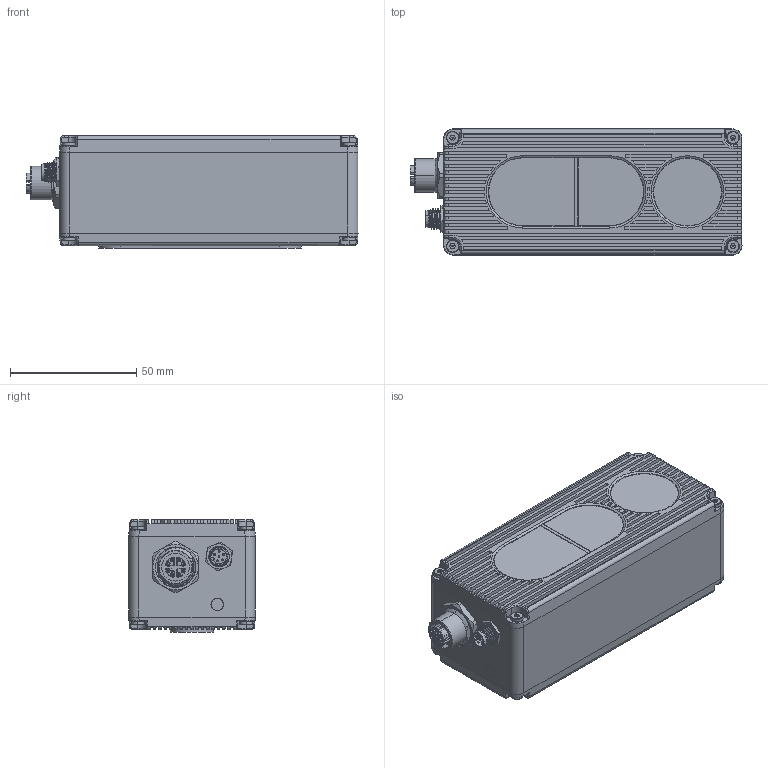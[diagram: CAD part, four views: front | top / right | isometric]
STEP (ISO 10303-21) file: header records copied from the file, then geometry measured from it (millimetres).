
FILE_DESCRIPTION(/* description */ (''),/* implementation_level */ '2;1');
FILE_NAME(/* name */ '86-body-v2.stp',/* time_stamp */ '2024-04-17T10:43:40+08:00',/* author */ (''),/* organization */ (''),/* preprocessor_version */ 'ST-DEVELOPER v16',/* originating_system */ 'SIEMENS PLM Software NX 10.0',/* authorisation */ '');
FILE_SCHEMA (('AUTOMOTIVE_DESIGN { 1 0 10303 214 3 1 1 1 }'));
Products named in the file (1): will62F4D47A2ccx
Bounding box: 131.3 x 50 x 44.5 mm (x, y, z)
Volume: 252760.3 mm3; surface area: 40239.9 mm2
Topology: 14 solids, 21 shells, 1827 faces, 5046 edges, 3377 vertices
Faces by surface type: plane 803, cylinder 637, bspline 153, cone 120, torus 102, sphere 12
Full cylindrical faces by diameter (mm): 5 x1
Entity records: 95378 total; most frequent: CARTESIAN_POINT 49390, ORIENTED_EDGE 10064, DIRECTION 8898, EDGE_CURVE 5032, VERTEX_POINT 3376, AXIS2_PLACEMENT_3D 3257, LINE 2384, VECTOR 2384
